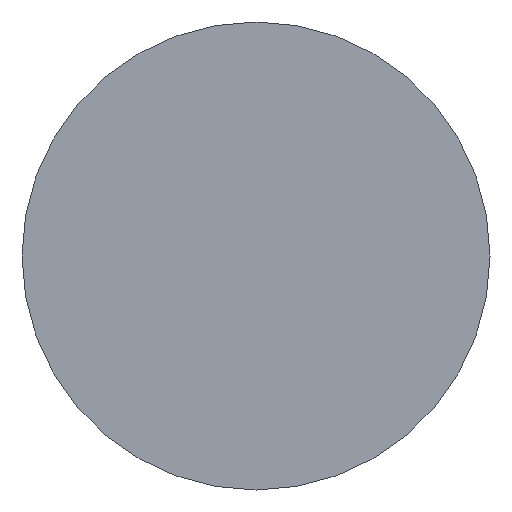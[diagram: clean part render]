
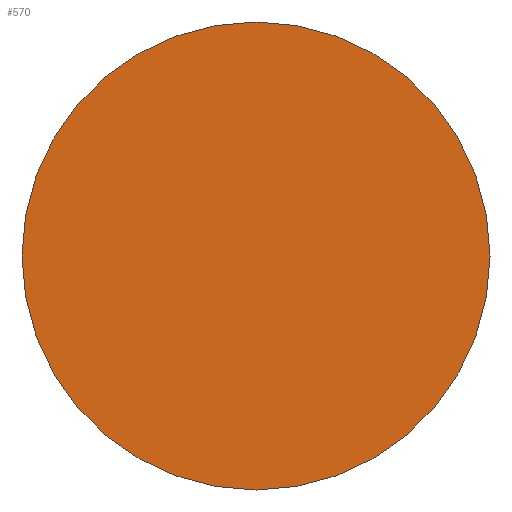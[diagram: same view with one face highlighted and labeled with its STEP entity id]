
A CAD part, left-side view. The second image highlights one B-rep face of the part: STEP entity #570.
In plain terms, the highlighted planar face has unit normal (-1, 0, 0).
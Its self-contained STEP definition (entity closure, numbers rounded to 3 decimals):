
#18=PLANE('',#685);
#101=FACE_OUTER_BOUND('',#130,.T.);
#130=EDGE_LOOP('',(#524,#525));
#200=CIRCLE('',#686,2.75);
#201=CIRCLE('',#687,2.75);
#265=VERTEX_POINT('',#1083);
#266=VERTEX_POINT('',#1084);
#353=EDGE_CURVE('',#265,#266,#200,.T.);
#354=EDGE_CURVE('',#266,#265,#201,.T.);
#524=ORIENTED_EDGE('',*,*,#353,.F.);
#525=ORIENTED_EDGE('',*,*,#354,.F.);
#570=ADVANCED_FACE('',(#101),#18,.T.);
#685=AXIS2_PLACEMENT_3D('',#1082,#895,#896);
#686=AXIS2_PLACEMENT_3D('',#1085,#897,#898);
#687=AXIS2_PLACEMENT_3D('',#1086,#899,#900);
#895=DIRECTION('center_axis',(-1.,0.,0.));
#896=DIRECTION('ref_axis',(0.,0.,1.));
#897=DIRECTION('center_axis',(1.,0.,0.));
#898=DIRECTION('ref_axis',(0.,0.,-1.));
#899=DIRECTION('center_axis',(1.,0.,0.));
#900=DIRECTION('ref_axis',(0.,0.,-1.));
#1082=CARTESIAN_POINT('Origin',(0.,2.75,0.));
#1083=CARTESIAN_POINT('',(0.,2.75,0.));
#1084=CARTESIAN_POINT('',(0.,-2.75,0.));
#1085=CARTESIAN_POINT('Origin',(0.,0.,0.));
#1086=CARTESIAN_POINT('Origin',(0.,0.,0.));
